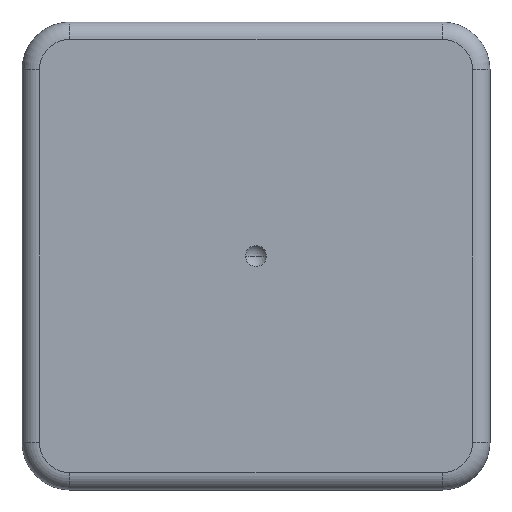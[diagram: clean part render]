
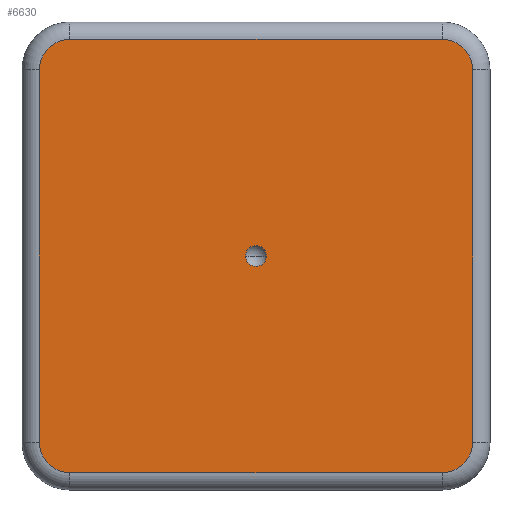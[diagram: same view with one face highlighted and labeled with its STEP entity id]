
A CAD part, front view. The second image highlights one B-rep face of the part: STEP entity #6630.
In plain terms, the highlighted planar face has unit normal (0, -1, 0).
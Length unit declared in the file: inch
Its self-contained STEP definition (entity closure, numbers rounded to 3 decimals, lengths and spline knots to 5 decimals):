
#77 = AXIS2_PLACEMENT_3D ( 'NONE', #2532, #2531, #2530 ) ;
#237 = EDGE_LOOP ( 'NONE', ( #6077, #6076 ) ) ;
#247 = EDGE_LOOP ( 'NONE', ( #6075, #6074, #6073, #6072, #6071, #6070, #6069, #6068 ) ) ;
#892 = DIRECTION ( 'NONE',  ( 0., 0., -1. ) ) ;
#898 = CARTESIAN_POINT ( 'NONE',  ( -1.5525, -1.25, -1.3345 ) ) ;
#902 = DIRECTION ( 'NONE',  ( -1., 0., 0. ) ) ;
#912 = DIRECTION ( 'NONE',  ( 1., 0., 0. ) ) ;
#913 = CARTESIAN_POINT ( 'NONE',  ( 1.3345, -1.25, -1.5525 ) ) ;
#919 = CARTESIAN_POINT ( 'NONE',  ( -1.3345, -1.25, 1.5525 ) ) ;
#1358 = DIRECTION ( 'NONE',  ( 0., 0., 1. ) ) ;
#1359 = CARTESIAN_POINT ( 'NONE',  ( 1.5525, -1.25, 1.3345 ) ) ;
#1654 = DIRECTION ( 'NONE',  ( 0., 0., 1. ) ) ;
#1655 = DIRECTION ( 'NONE',  ( 0., -1., 0. ) ) ;
#1656 = CARTESIAN_POINT ( 'NONE',  ( 1.3345, -1.25, -1.3345 ) ) ;
#1657 = DIRECTION ( 'NONE',  ( -1., 0., 0. ) ) ;
#1658 = DIRECTION ( 'NONE',  ( 0., 1., 0. ) ) ;
#1661 = DIRECTION ( 'NONE',  ( 0., 0., 1. ) ) ;
#1662 = DIRECTION ( 'NONE',  ( 0., -1., 0. ) ) ;
#1663 = CARTESIAN_POINT ( 'NONE',  ( 0., -1.25, 0. ) ) ;
#1671 = DIRECTION ( 'NONE',  ( 0., 0., 1. ) ) ;
#1672 = DIRECTION ( 'NONE',  ( 0., -1., 0. ) ) ;
#1673 = CARTESIAN_POINT ( 'NONE',  ( -1.3345, -1.25, 1.3345 ) ) ;
#1675 = CARTESIAN_POINT ( 'NONE',  ( -1.3345, -1.25, -1.3345 ) ) ;
#1681 = DIRECTION ( 'NONE',  ( 0., 0., 1. ) ) ;
#1682 = DIRECTION ( 'NONE',  ( 0., -1., 0. ) ) ;
#1689 = CARTESIAN_POINT ( 'NONE',  ( 1.3345, -1.25, 1.3345 ) ) ;
#2120 = DIRECTION ( 'NONE',  ( 0., 0., 1. ) ) ;
#2121 = DIRECTION ( 'NONE',  ( 0., 1., 0. ) ) ;
#2122 = PLANE ( 'NONE',  #4854 ) ;
#2137 = CARTESIAN_POINT ( 'NONE',  ( 1.3345, -1.25, 1.3345 ) ) ;
#2530 = DIRECTION ( 'NONE',  ( -1., 0., 0. ) ) ;
#2531 = DIRECTION ( 'NONE',  ( 0., 1., 0. ) ) ;
#2532 = CARTESIAN_POINT ( 'NONE',  ( 0., -1.25, 0. ) ) ;
#4465 = VERTEX_POINT ( 'NONE', #8408 ) ;
#4467 = VERTEX_POINT ( 'NONE', #8403 ) ;
#4518 = VERTEX_POINT ( 'NONE', #8671 ) ;
#4549 = VERTEX_POINT ( 'NONE', #8814 ) ;
#4551 = VERTEX_POINT ( 'NONE', #8828 ) ;
#4565 = VERTEX_POINT ( 'NONE', #8865 ) ;
#4567 = VERTEX_POINT ( 'NONE', #8878 ) ;
#4569 = VERTEX_POINT ( 'NONE', #8891 ) ;
#4589 = VERTEX_POINT ( 'NONE', #8962 ) ;
#4595 = VERTEX_POINT ( 'NONE', #8984 ) ;
#4756 = AXIS2_PLACEMENT_3D ( 'NONE', #1663, #1658, #1657 ) ;
#4758 = AXIS2_PLACEMENT_3D ( 'NONE', #1673, #1662, #1661 ) ;
#4759 = AXIS2_PLACEMENT_3D ( 'NONE', #1675, #1672, #1671 ) ;
#4760 = AXIS2_PLACEMENT_3D ( 'NONE', #1656, #1655, #1654 ) ;
#4761 = AXIS2_PLACEMENT_3D ( 'NONE', #1689, #1682, #1681 ) ;
#4854 = AXIS2_PLACEMENT_3D ( 'NONE', #2137, #2121, #2120 ) ;
#6068 = ORIENTED_EDGE ( 'NONE', *, *, #7800, .T. ) ;
#6069 = ORIENTED_EDGE ( 'NONE', *, *, #7847, .T. ) ;
#6070 = ORIENTED_EDGE ( 'NONE', *, *, #7808, .T. ) ;
#6071 = ORIENTED_EDGE ( 'NONE', *, *, #7851, .T. ) ;
#6072 = ORIENTED_EDGE ( 'NONE', *, *, #7804, .T. ) ;
#6073 = ORIENTED_EDGE ( 'NONE', *, *, #7843, .T. ) ;
#6074 = ORIENTED_EDGE ( 'NONE', *, *, #7968, .T. ) ;
#6075 = ORIENTED_EDGE ( 'NONE', *, *, #7854, .T. ) ;
#6076 = ORIENTED_EDGE ( 'NONE', *, *, #8244, .T. ) ;
#6077 = ORIENTED_EDGE ( 'NONE', *, *, #7853, .T. ) ;
#6630 = ADVANCED_FACE ( 'NONE', ( #6928, #6919 ), #2122, .F. ) ;
#6919 = FACE_OUTER_BOUND ( 'NONE', #247, .T. ) ;
#6928 = FACE_BOUND ( 'NONE', #237, .T. ) ;
#7029 = LINE ( 'NONE', #913, #7031 ) ;
#7031 = VECTOR ( 'NONE', #912, 39.37008 ) ;
#7035 = VECTOR ( 'NONE', #892, 39.37008 ) ;
#7037 = VECTOR ( 'NONE', #902, 39.37008 ) ;
#7041 = LINE ( 'NONE', #919, #7037 ) ;
#7046 = LINE ( 'NONE', #898, #7035 ) ;
#7090 = CIRCLE ( 'NONE', #4761, 0.218 ) ;
#7096 = CIRCLE ( 'NONE', #4759, 0.218 ) ;
#7103 = CIRCLE ( 'NONE', #4758, 0.218 ) ;
#7106 = CIRCLE ( 'NONE', #4756, 0.07502 ) ;
#7107 = CIRCLE ( 'NONE', #4760, 0.218 ) ;
#7262 = LINE ( 'NONE', #1359, #7266 ) ;
#7266 = VECTOR ( 'NONE', #1358, 39.37008 ) ;
#7647 = CIRCLE ( 'NONE', #77, 0.07502 ) ;
#7800 = EDGE_CURVE ( 'NONE', #4567, #4595, #7029, .T. ) ;
#7804 = EDGE_CURVE ( 'NONE', #4589, #4518, #7041, .T. ) ;
#7808 = EDGE_CURVE ( 'NONE', #4549, #4569, #7046, .T. ) ;
#7843 = EDGE_CURVE ( 'NONE', #4551, #4589, #7090, .T. ) ;
#7847 = EDGE_CURVE ( 'NONE', #4569, #4567, #7096, .T. ) ;
#7851 = EDGE_CURVE ( 'NONE', #4518, #4549, #7103, .T. ) ;
#7853 = EDGE_CURVE ( 'NONE', #4467, #4465, #7106, .T. ) ;
#7854 = EDGE_CURVE ( 'NONE', #4595, #4565, #7107, .T. ) ;
#7968 = EDGE_CURVE ( 'NONE', #4565, #4551, #7262, .T. ) ;
#8244 = EDGE_CURVE ( 'NONE', #4465, #4467, #7647, .T. ) ;
#8403 = CARTESIAN_POINT ( 'NONE',  ( 0.07502, -1.25, 0. ) ) ;
#8408 = CARTESIAN_POINT ( 'NONE',  ( -0.07502, -1.25, 0. ) ) ;
#8671 = CARTESIAN_POINT ( 'NONE',  ( -1.3345, -1.25, 1.5525 ) ) ;
#8814 = CARTESIAN_POINT ( 'NONE',  ( -1.5525, -1.25, 1.3345 ) ) ;
#8828 = CARTESIAN_POINT ( 'NONE',  ( 1.5525, -1.25, 1.3345 ) ) ;
#8865 = CARTESIAN_POINT ( 'NONE',  ( 1.5525, -1.25, -1.3345 ) ) ;
#8878 = CARTESIAN_POINT ( 'NONE',  ( -1.3345, -1.25, -1.5525 ) ) ;
#8891 = CARTESIAN_POINT ( 'NONE',  ( -1.5525, -1.25, -1.3345 ) ) ;
#8962 = CARTESIAN_POINT ( 'NONE',  ( 1.3345, -1.25, 1.5525 ) ) ;
#8984 = CARTESIAN_POINT ( 'NONE',  ( 1.3345, -1.25, -1.5525 ) ) ;
